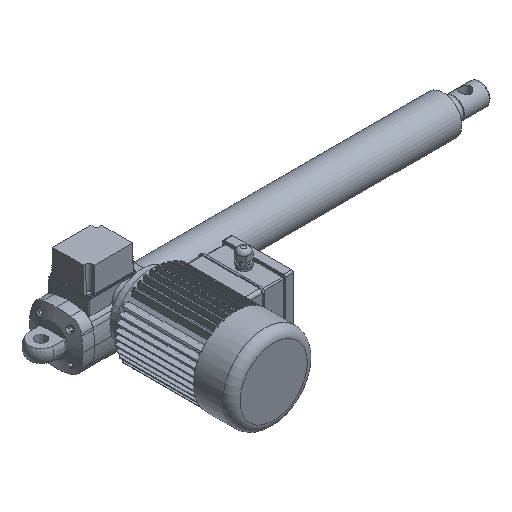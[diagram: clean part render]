
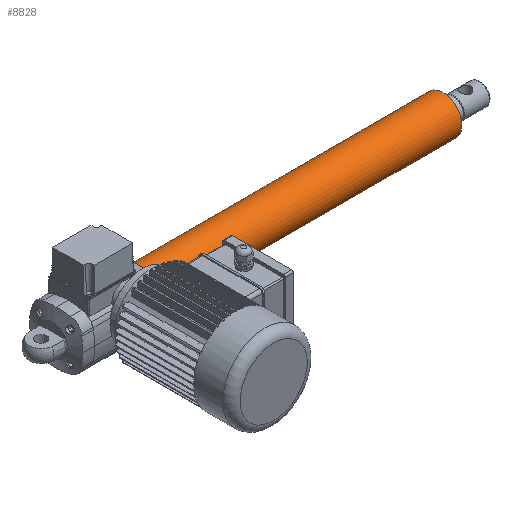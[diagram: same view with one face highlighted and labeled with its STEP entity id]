
A CAD part, isometric view. The second image highlights one B-rep face of the part: STEP entity #8828.
In plain terms, the highlighted cylindrical face has radius 35 mm (diameter 70 mm), a full revolution.
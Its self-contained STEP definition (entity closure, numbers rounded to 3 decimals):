
#109=CYLINDRICAL_SURFACE('',#9435,35.);
#2448=ORIENTED_EDGE('',*,*,#4744,.T.);
#2449=ORIENTED_EDGE('',*,*,#4894,.F.);
#4744=EDGE_CURVE('',#6059,#6059,#6892,.T.);
#4894=EDGE_CURVE('',#6155,#6155,#6923,.T.);
#6059=VERTEX_POINT('',#13257);
#6155=VERTEX_POINT('',#13589);
#6892=CIRCLE('',#9343,35.);
#6923=CIRCLE('',#9436,35.);
#7357=EDGE_LOOP('',(#2448));
#7358=EDGE_LOOP('',(#2449));
#7931=FACE_BOUND('',#7357,.T.);
#7932=FACE_BOUND('',#7358,.T.);
#8828=ADVANCED_FACE('',(#7931,#7932),#109,.T.);
#9343=AXIS2_PLACEMENT_3D('',#13256,#10393,#10394);
#9435=AXIS2_PLACEMENT_3D('',#13587,#10691,#10692);
#9436=AXIS2_PLACEMENT_3D('',#13588,#10693,#10694);
#10393=DIRECTION('',(1.,0.,0.));
#10394=DIRECTION('',(0.,0.,-1.));
#10691=DIRECTION('',(-1.,0.,0.));
#10692=DIRECTION('',(0.,0.,1.));
#10693=DIRECTION('',(1.,0.,0.));
#10694=DIRECTION('',(0.,0.,-1.));
#13256=CARTESIAN_POINT('',(133.,0.,0.));
#13257=CARTESIAN_POINT('',(133.,0.,-35.));
#13587=CARTESIAN_POINT('',(679.5,0.,0.));
#13588=CARTESIAN_POINT('',(691.1,0.,0.));
#13589=CARTESIAN_POINT('',(691.1,0.,-35.));
